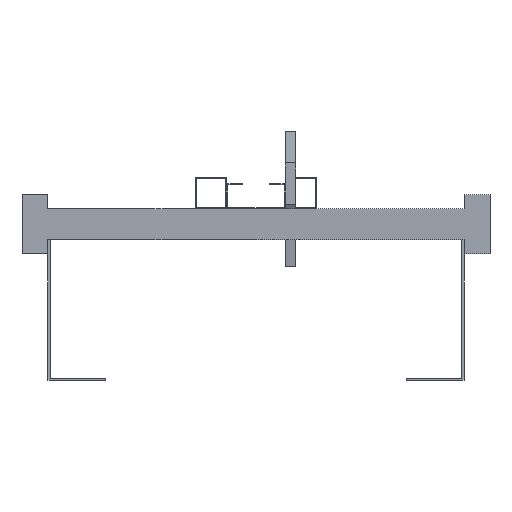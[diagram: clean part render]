
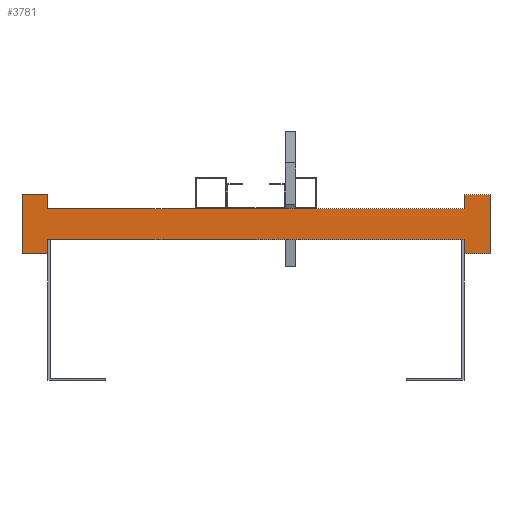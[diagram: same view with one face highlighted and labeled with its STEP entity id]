
A CAD part, front view. The second image highlights one B-rep face of the part: STEP entity #3781.
In plain terms, the highlighted planar face has unit normal (0, -1, 0).
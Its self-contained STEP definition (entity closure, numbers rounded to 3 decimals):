
#1365=DIRECTION('',(0.,0.,1.));
#1366=VECTOR('',#1365,13.5);
#1367=CARTESIAN_POINT('',(200.,0.,-28.5));
#1368=LINE('',#1367,#1366);
#1369=DIRECTION('',(0.,0.,-1.));
#1370=VECTOR('',#1369,13.5);
#1371=CARTESIAN_POINT('',(-200.,0.,-15.));
#1372=LINE('',#1371,#1370);
#1373=DIRECTION('',(-1.,0.,0.));
#1374=VECTOR('',#1373,25.);
#1375=CARTESIAN_POINT('',(-200.,0.,-28.5));
#1376=LINE('',#1375,#1374);
#1377=DIRECTION('',(0.,0.,1.));
#1378=VECTOR('',#1377,57.);
#1379=CARTESIAN_POINT('',(-225.,0.,-28.5));
#1380=LINE('',#1379,#1378);
#1381=DIRECTION('',(1.,0.,0.));
#1382=VECTOR('',#1381,25.);
#1383=CARTESIAN_POINT('',(-225.,0.,28.5));
#1384=LINE('',#1383,#1382);
#1385=DIRECTION('',(0.,0.,-1.));
#1386=VECTOR('',#1385,13.5);
#1387=CARTESIAN_POINT('',(-200.,0.,28.5));
#1388=LINE('',#1387,#1386);
#1389=DIRECTION('',(0.,0.,1.));
#1390=VECTOR('',#1389,13.5);
#1391=CARTESIAN_POINT('',(200.,0.,15.));
#1392=LINE('',#1391,#1390);
#1393=DIRECTION('',(1.,0.,0.));
#1394=VECTOR('',#1393,25.);
#1395=CARTESIAN_POINT('',(200.,0.,28.5));
#1396=LINE('',#1395,#1394);
#1397=DIRECTION('',(0.,0.,-1.));
#1398=VECTOR('',#1397,57.);
#1399=CARTESIAN_POINT('',(225.,0.,28.5));
#1400=LINE('',#1399,#1398);
#1401=DIRECTION('',(-1.,0.,0.));
#1402=VECTOR('',#1401,25.);
#1403=CARTESIAN_POINT('',(225.,0.,-28.5));
#1404=LINE('',#1403,#1402);
#1405=DIRECTION('',(1.,0.,0.));
#1406=VECTOR('',#1405,400.);
#1407=CARTESIAN_POINT('',(-200.,0.,-15.));
#1408=LINE('',#1407,#1406);
#1417=DIRECTION('',(1.,0.,0.));
#1418=VECTOR('',#1417,400.);
#1419=CARTESIAN_POINT('',(-200.,0.,15.));
#1420=LINE('',#1419,#1418);
#1489=CARTESIAN_POINT('',(-225.,0.,28.5));
#1490=CARTESIAN_POINT('',(-200.,0.,28.5));
#1491=VERTEX_POINT('',#1489);
#1492=VERTEX_POINT('',#1490);
#1493=CARTESIAN_POINT('',(-200.,0.,-28.5));
#1494=CARTESIAN_POINT('',(-225.,0.,-28.5));
#1495=VERTEX_POINT('',#1493);
#1496=VERTEX_POINT('',#1494);
#1497=CARTESIAN_POINT('',(225.,0.,28.5));
#1498=CARTESIAN_POINT('',(225.,0.,-28.5));
#1499=VERTEX_POINT('',#1497);
#1500=VERTEX_POINT('',#1498);
#1501=CARTESIAN_POINT('',(200.,0.,-28.5));
#1502=VERTEX_POINT('',#1501);
#1503=CARTESIAN_POINT('',(200.,0.,28.5));
#1504=VERTEX_POINT('',#1503);
#1521=CARTESIAN_POINT('',(-200.,0.,-15.));
#1523=VERTEX_POINT('',#1521);
#1525=CARTESIAN_POINT('',(-200.,0.,15.));
#1527=VERTEX_POINT('',#1525);
#1529=CARTESIAN_POINT('',(200.,0.,-15.));
#1531=VERTEX_POINT('',#1529);
#1533=CARTESIAN_POINT('',(200.,0.,15.));
#1535=VERTEX_POINT('',#1533);
#3756=CARTESIAN_POINT('',(0.,0.,0.));
#3757=DIRECTION('',(0.,1.,0.));
#3758=DIRECTION('',(1.,0.,0.));
#3759=AXIS2_PLACEMENT_3D('',#3756,#3757,#3758);
#3760=PLANE('',#3759);
#3761=ORIENTED_EDGE('',*,*,#2261,.T.);
#3763=ORIENTED_EDGE('',*,*,#3762,.F.);
#3764=ORIENTED_EDGE('',*,*,#2005,.T.);
#3765=ORIENTED_EDGE('',*,*,#3096,.T.);
#3767=ORIENTED_EDGE('',*,*,#3766,.T.);
#3769=ORIENTED_EDGE('',*,*,#3768,.T.);
#3770=ORIENTED_EDGE('',*,*,#2013,.T.);
#3772=ORIENTED_EDGE('',*,*,#3771,.T.);
#3773=ORIENTED_EDGE('',*,*,#2253,.T.);
#3775=ORIENTED_EDGE('',*,*,#3774,.T.);
#3777=ORIENTED_EDGE('',*,*,#3776,.T.);
#3778=ORIENTED_EDGE('',*,*,#3407,.T.);
#3779=EDGE_LOOP('',(#3761,#3763,#3764,#3765,#3767,#3769,#3770,#3772,#3773,#3775,
#3777,#3778));
#3780=FACE_OUTER_BOUND('',#3779,.F.);
#2005=EDGE_CURVE('',#1523,#1495,#1372,.T.);
#2013=EDGE_CURVE('',#1492,#1527,#1388,.T.);
#2253=EDGE_CURVE('',#1535,#1504,#1392,.T.);
#2261=EDGE_CURVE('',#1502,#1531,#1368,.T.);
#3096=EDGE_CURVE('',#1495,#1496,#1376,.T.);
#3407=EDGE_CURVE('',#1500,#1502,#1404,.T.);
#3762=EDGE_CURVE('',#1523,#1531,#1408,.T.);
#3766=EDGE_CURVE('',#1496,#1491,#1380,.T.);
#3768=EDGE_CURVE('',#1491,#1492,#1384,.T.);
#3771=EDGE_CURVE('',#1527,#1535,#1420,.T.);
#3774=EDGE_CURVE('',#1504,#1499,#1396,.T.);
#3776=EDGE_CURVE('',#1499,#1500,#1400,.T.);
#3781=ADVANCED_FACE('',(#3780),#3760,.F.);
